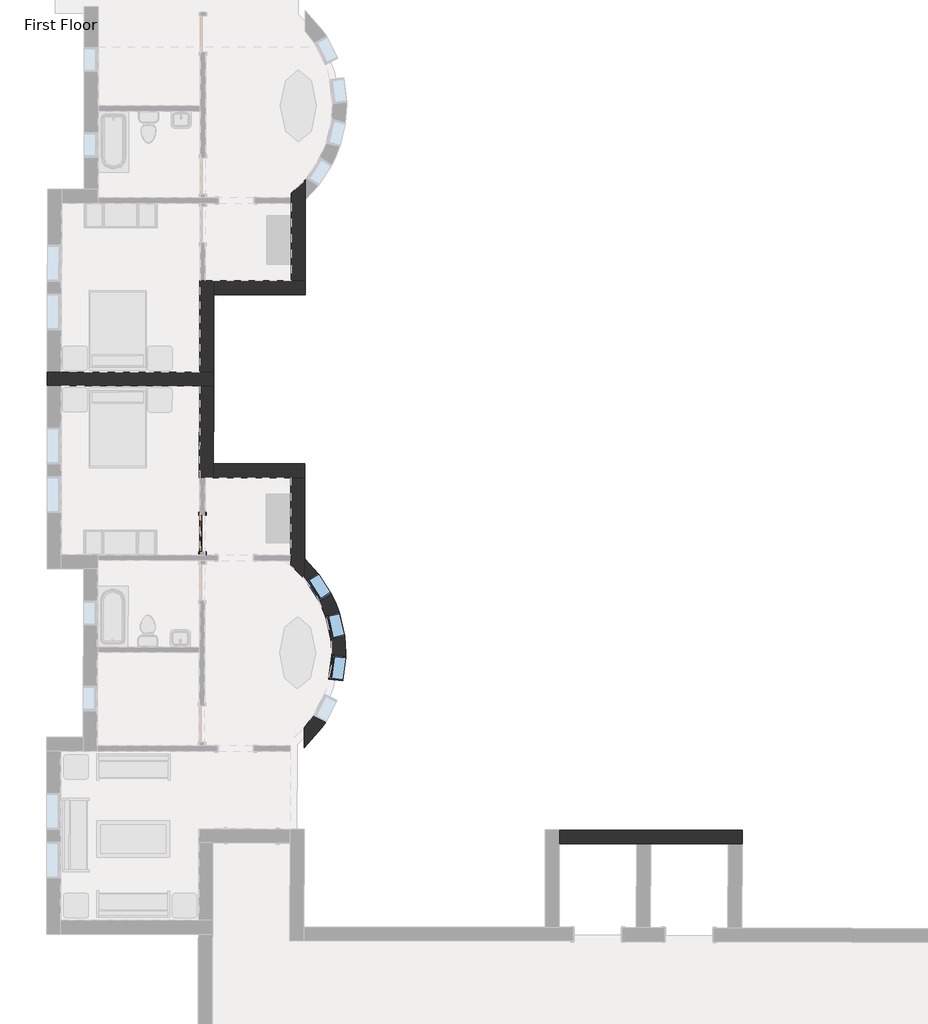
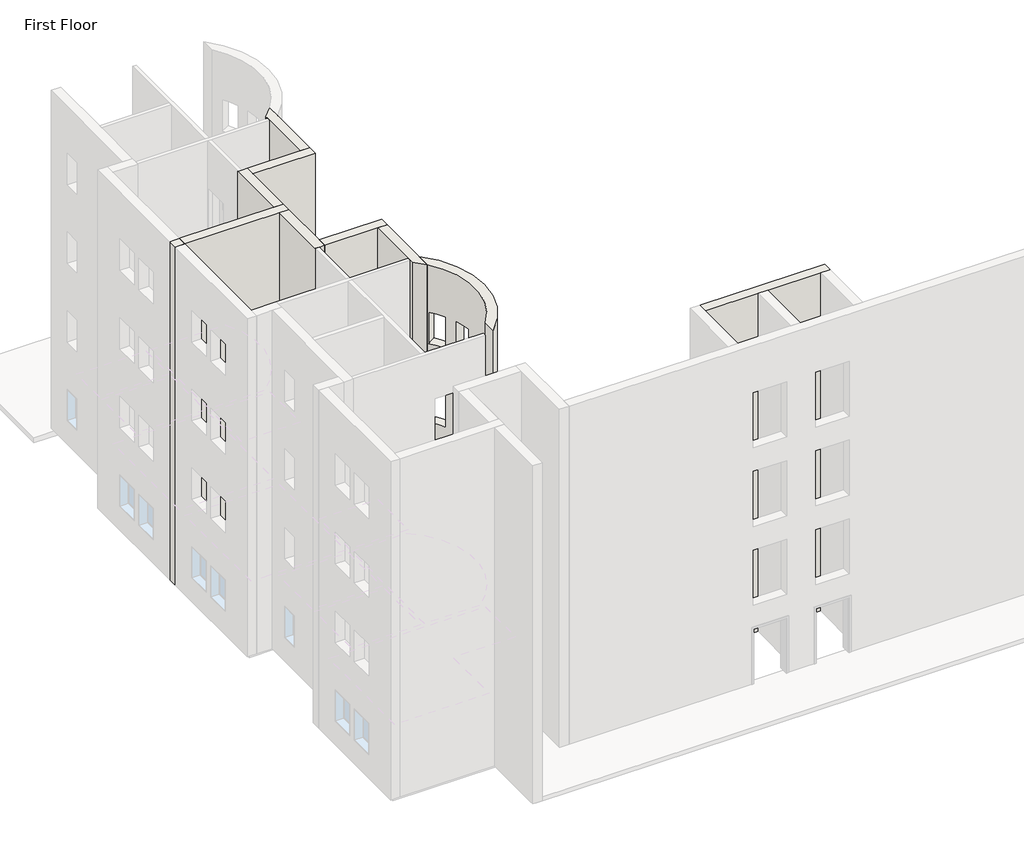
# One storey, part 7 of 22: 10 walls, 3 windows, 1 door.
"""IFC4 building model written with IfcOpenShell, lengths in millimetres."""

from ifc_helpers import new_model, si_unit, frame, origin, origin_with_axes, place, context, project, spatial, polyline, circle_curve, outline, extrude, faceted_brep, transform, mapped, element, save
from ifc_brep_helpers import plane_surface, cylinder_surface, revolved_surface, advanced_brep
from components import m_single_decorative_2_0915_x_2134mm_0b11df3f, m_fixed_0610_x_1220mm_2c28ef1d, m_fixed_0610_x_1220mm_1ea27827

model = new_model("IFC4")

# Units and contexts
model_context = context("Model", 3, world=origin())
ifc_project = project(units=[si_unit("LENGTHUNIT", "METRE", prefix="MILLI")], contexts=[model_context])

# Site, building, storey
site = spatial("IfcSite", under=ifc_project)
building = spatial("IfcBuilding", under=site)
storey = spatial("IfcBuildingStorey", under=building, Name="First Floor", Elevation=0.0)

# Door
placement = place(None, origin())
m_single_decorative_2_0915_x_2134mm_shape = m_single_decorative_2_0915_x_2134mm_0b11df3f(model_context)
element("IfcDoor", 1, ObjectType="M_Single-Decorative 2 : 0915 x 2134mm", at=placement, inside=storey, context=model_context, shape_type="MappedRepresentation", body=[
    mapped(m_single_decorative_2_0915_x_2134mm_shape, transform((-30128.4841363, -23534.6169126, 0.0), x_axis=(-0.0014474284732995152, -0.9999989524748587, 0.0), y_axis=(0.9999989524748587, -0.0014474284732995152, 0.0), z_axis=(0.0, 0.0, 1.0))),
])

# Walls
element("IfcWall", 2, ObjectType="Exterior - Brick on Mtl. Stud", at=placement, inside=storey, context=model_context, shape_type="Brep", body=[
    faceted_brep([(-29847.6357278, -19494.2691882, 0.0), (-30197.6353611, -19493.7625882, 0.0), (-33657.6317367, -19488.7544857, 0.0), (-34007.6313701, -19488.2478857, 0.0), (-34007.6313701, -19488.2478857, 13107.0), (-33657.6317367, -19488.7544857, 13107.0), (-30197.6353611, -19493.7625882, 13107.0), (-29847.6357278, -19494.2691882, 13107.0), (-29848.1423277, -19844.2688215, 0.0), (-29848.1423277, -19844.2688215, 13107.0), (-30198.1419611, -19843.7622216, 13107.0), (-33658.1383367, -19838.7541191, 13107.0), (-34008.13797, -19838.2475191, 13107.0), (-34008.13797, -19838.2475191, 0.0), (-33658.1383367, -19838.7541191, 0.0), (-30198.1419611, -19843.7622216, 0.0)], [[[0, 1, 2, 3, 4, 5, 6, 7]], [[8, 9, 10, 11, 12, 13, 14, 15]], [[3, 2, 1, 0, 8, 15, 14, 13]], [[7, 6, 5, 4, 12, 11, 10, 9]], [[4, 3, 13, 12]], [[0, 7, 9, 8]]]),
])
element("IfcWall", 3, ObjectType="Exterior - Brick on Mtl. Stud", at=placement, inside=storey, context=model_context, shape_type="Brep", body=[
    faceted_brep([(-29847.6357278, -19494.2691882, 0.0), (-29844.8335063, -17558.2712162, 0.0), (-29844.3269063, -17208.2715828, 0.0), (-29844.3269063, -17208.2715828, 13107.0), (-29844.8335063, -17558.2712162, 13107.0), (-29847.6357278, -19494.2691882, 13107.0), (-30197.6353611, -19493.7625882, 0.0), (-30197.6353611, -19493.7625882, 13107.0), (-30194.3265397, -17207.7649828, 13107.0), (-30194.3265397, -17207.7649828, 0.0), (-30187.0765472, -17207.7754767, 0.0), (-30051.5766892, -17207.9716033, 0.0), (-30051.5766892, -17207.9716033, 13107.0), (-30187.0765472, -17207.7754767, 13107.0)], [[[0, 1, 2, 3, 4, 5]], [[6, 7, 8, 9]], [[2, 1, 0, 6, 9, 10, 11]], [[5, 4, 3, 12, 13, 8, 7]], [[0, 5, 7, 6]], [[3, 2, 11, 10, 9, 8, 13, 12]]]),
])
element("IfcWall", 4, ObjectType="Exterior - Brick on Mtl. Stud", at=placement, inside=storey, context=model_context, shape_type="Brep", body=[
    faceted_brep([(-29844.8335063, -17558.2712162, 0.0), (-27558.8359009, -17561.5800377, 0.0), (-27558.8359009, -17561.5800377, 13107.0), (-29844.8335063, -17558.2712162, 13107.0), (-29844.3269063, -17208.2715828, 0.0), (-29844.3269063, -17208.2715828, 13107.0), (-27908.3289343, -17211.0738043, 13107.0), (-27558.3293009, -17211.5804043, 13107.0), (-27558.3293009, -17211.5804043, 0.0), (-27908.3289343, -17211.0738043, 0.0)], [[[0, 1, 2, 3]], [[4, 5, 6, 7, 8, 9]], [[1, 0, 4, 9, 8]], [[3, 2, 7, 6, 5]], [[0, 3, 5, 4]], [[2, 1, 8, 7]]]),
])
element("IfcWall", 5, ObjectType="Exterior - Brick on Mtl. Stud", at=placement, inside=storey, context=model_context, shape_type="AdvancedBrep", body=[
    advanced_brep(
    [(-27558.3293009, -17211.5804043, 0.0), (-27555.3862129, -15178.2606268, 0.0), (-27554.6547514, -14672.9086878, 0.0), (-27554.6547514, -14672.9086878, 13107.0), (-27555.3862129, -15178.2606268, 13107.0), (-27558.3293009, -17211.5804043, 13107.0), (-27908.3289343, -17211.0738043, 0.0), (-27908.3289343, -17211.0738043, 13107.0), (-27905.5162189, -15267.8258399, 13107.0), (-27905.3200924, -15132.3259819, 13107.0), (-27905.157022, -15019.663975, 13107.0), (-27905.157022, -15019.663975, 0.0), (-27905.3200924, -15132.3259819, 0.0), (-27905.5162189, -15267.8258399, 0.0)],
    [
        (0, 1),
        (1, 2),
        (2, 3),
        (3, 4),
        (4, 5),
        (5, 0),
        (6, 7),
        (7, 8),
        (8, 9),
        (9, 10),
        (10, 11),
        (11, 12),
        (12, 13),
        (13, 6),
        (0, 6),
        (11, 2, circle_curve(frame((-29743.0251618, -12811.413604, 0.0), z_axis=(0.0, 0.0, 1.0), x_axis=(0.0014474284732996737, 0.9999989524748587, 0.0)), 2873.0)),
        (3, 10, circle_curve(frame((-29743.0251618, -12811.413604, 13107.0), z_axis=(0.0, 0.0, -1.0), x_axis=(0.0014474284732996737, 0.9999989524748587, 0.0)), 2873.0)),
        (7, 5),
    ],
    [
        plane_surface(frame((-27558.5826009, -17386.580221, 0.0), z_axis=(0.9999989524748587, -0.0014474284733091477, 0.0), x_axis=(0.0014474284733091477, 0.9999989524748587, 0.0))),
        plane_surface(frame((-27908.5822343, -17386.073621, 0.0), z_axis=(-0.9999989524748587, 0.0014474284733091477, 0.0), x_axis=(-0.0014474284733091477, -0.9999989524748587, 0.0))),
        plane_surface(frame((-27558.5826009, -17386.580221, 0.0), z_axis=(0.0, 0.0, -1.0), x_axis=(-0.9999989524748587, 0.001447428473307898, 0.0))),
        plane_surface(frame((-27555.2737794, -15100.5826156, 13107.0), z_axis=(0.0, 0.0, 1.0), x_axis=(-0.9999989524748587, 0.001447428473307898, 0.0))),
        plane_surface(frame((-30019.326723, -17208.0182828, 0.0), z_axis=(-0.0014474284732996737, -0.9999989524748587, 0.0), x_axis=(-0.9999989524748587, 0.0014474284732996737, 0.0))),
        revolved_surface(polyline([(-29738.86669979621, -9938.41661353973, 0.0), (-29738.86669979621, -9938.41661353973, 13107.0)]), (-29743.0251618, -12811.413604, 0.0), (0.0, 0.0, -1.0)),
    ],
    [
        (0, [[1, 2, 3, 4, 5, 6]]),
        (1, [[7, 8, 9, 10, 11, 12, 13, 14]]),
        (2, [[-2, -1, 15, -14, -13, -12, 16]]),
        (3, [[-5, -4, 17, -10, -9, -8, 18]]),
        (4, [[-6, -18, -7, -15]]),
        (5, [[-3, -16, -11, -17]]),
    ],
),
])
element("IfcWall", 6, ObjectType="Exterior - Brick on Mtl. Stud", at=placement, inside=storey, context=model_context, shape_type="Brep", body=[
    faceted_brep([(-21195.7227592, -31299.3523369, 0.0), (-19259.7308712, -31304.9567741, 0.0), (-18909.7323377, -31305.969973, 0.0), (-16973.7404497, -31311.5744101, 0.0), (-16623.7419163, -31312.587609, 0.0), (-16623.7419163, -31312.587609, 13107.0), (-16973.7404497, -31311.5744101, 13107.0), (-18909.7323377, -31305.969973, 13107.0), (-19259.7308712, -31304.9567741, 13107.0), (-21195.7227592, -31299.3523369, 13107.0), (-21194.7095603, -30949.3538034, 0.0), (-21194.7095603, -30949.3538034, 13107.0), (-16622.7287174, -30962.5890755, 13107.0), (-16622.7287174, -30962.5890755, 0.0)], [[[0, 1, 2, 3, 4, 5, 6, 7, 8, 9]], [[10, 11, 12, 13]], [[4, 3, 2, 1, 0, 10, 13]], [[9, 8, 7, 6, 5, 12, 11]], [[0, 9, 11, 10]], [[5, 4, 13, 12]]]),
])
element("IfcWall", 7, ObjectType="Exterior - Brick on Mtl. Stud", at=placement, inside=storey, context=model_context, shape_type="SweptSolid", body=[
    extrude(outline(polyline([(-33657.6317367, -19488.7544857), (-30197.6353611, -19493.7625882), (-30198.1419611, -19843.7622216), (-33658.1383367, -19838.7541191), (-33657.6317367, -19488.7544857)])), origin_with_axes(), (0.0, 0.0, 1.0), 13107.0),
])
element("IfcWall", 8, ObjectType="Exterior - Brick on Mtl. Stud", at=placement, inside=storey, context=model_context, shape_type="Brep", body=[
    faceted_brep([(-30198.1419611, -19843.7622216, 0.0), (-30201.4507826, -22129.7598269, 0.0), (-30201.4507826, -22129.7598269, 13107.0), (-30198.1419611, -19843.7622216, 13107.0), (-29848.1423277, -19844.2688215, 0.0), (-29848.1423277, -19844.2688215, 13107.0), (-29850.9445493, -21780.2667935, 13107.0), (-29851.4511492, -22130.2664269, 13107.0), (-29851.4511492, -22130.2664269, 0.0), (-29850.9445493, -21780.2667935, 0.0), (-30058.7009321, -22129.9664473, 0.0), (-30194.2007902, -22129.7703208, 0.0), (-30194.2007902, -22129.7703208, 13107.0), (-30058.7009321, -22129.9664473, 13107.0)], [[[0, 1, 2, 3]], [[4, 5, 6, 7, 8, 9]], [[1, 0, 4, 9, 8, 10, 11]], [[3, 2, 12, 13, 7, 6, 5]], [[2, 1, 11, 10, 8, 7, 13, 12]], [[0, 3, 5, 4]]]),
])
element("IfcWall", 9, ObjectType="Exterior - Brick on Mtl. Stud", at=placement, inside=storey, context=model_context, shape_type="Brep", body=[
    faceted_brep([(-29851.4511492, -22130.2664269, 0.0), (-27915.4531772, -22133.0686484, 0.0), (-27565.4535439, -22133.5752484, 0.0), (-27565.4535439, -22133.5752484, 13107.0), (-27915.4531772, -22133.0686484, 13107.0), (-29851.4511492, -22130.2664269, 13107.0), (-29850.9445493, -21780.2667935, 0.0), (-29850.9445493, -21780.2667935, 13107.0), (-27564.9469439, -21783.575615, 13107.0), (-27564.9469439, -21783.575615, 0.0)], [[[0, 1, 2, 3, 4, 5]], [[6, 7, 8, 9]], [[2, 1, 0, 6, 9]], [[5, 4, 3, 8, 7]], [[0, 5, 7, 6]], [[3, 2, 9, 8]]]),
])
element("IfcWall", 10, ObjectType="Exterior - Brick on Mtl. Stud", at=placement, inside=storey, context=model_context, shape_type="AdvancedBrep", body=[
    advanced_brep(
    [(-27915.4531772, -22133.0686484, 0.0), (-27918.2658926, -24076.3166128, 0.0), (-27918.4620192, -24211.8164709, 0.0), (-27918.6250895, -24324.4784778, 0.0), (-27918.6250895, -24324.4784778, 13107.0), (-27918.4620192, -24211.8164709, 13107.0), (-27918.2658926, -24076.3166128, 13107.0), (-27915.4531772, -22133.0686484, 13107.0), (-27565.4535439, -22133.5752484, 0.0), (-27565.4535439, -22133.5752484, 13107.0), (-27568.3966319, -24166.8950259, 13107.0), (-27569.1280934, -24672.2469649, 13107.0), (-27569.1280934, -24672.2469649, 0.0), (-27568.3966319, -24166.8950259, 0.0)],
    [
        (0, 1),
        (1, 2),
        (2, 3),
        (3, 4),
        (4, 5),
        (5, 6),
        (6, 7),
        (7, 0),
        (8, 9),
        (9, 10),
        (10, 11),
        (11, 12),
        (12, 13),
        (13, 8),
        (0, 8),
        (12, 3, circle_curve(frame((-29762.8780907, -26527.3992362, 0.0), z_axis=(0.0, 0.0, 1.0), x_axis=(-0.0014474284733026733, -0.9999989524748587, 0.0)), 2873.0)),
        (4, 11, circle_curve(frame((-29762.8780907, -26527.3992362, 13107.0), z_axis=(0.0, 0.0, -1.0), x_axis=(-0.0014474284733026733, -0.9999989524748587, 0.0)), 2873.0)),
        (9, 7),
    ],
    [
        plane_surface(frame((-27915.1998773, -21958.0688317, 0.0), z_axis=(-0.9999989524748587, 0.0014474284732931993, 0.0), x_axis=(-0.0014474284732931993, -0.9999989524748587, 0.0))),
        plane_surface(frame((-27565.2002439, -21958.5754317, 0.0), z_axis=(0.9999989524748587, -0.0014474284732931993, 0.0), x_axis=(0.0014474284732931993, 0.9999989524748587, 0.0))),
        plane_surface(frame((-27915.1998773, -21958.0688317, 0.0), z_axis=(0.0, 0.0, -1.0), x_axis=(0.9999989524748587, -0.0014474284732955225, 0.0))),
        plane_surface(frame((-27918.5086987, -24244.0664371, 13107.0), z_axis=(0.0, 0.0, 1.0), x_axis=(0.9999989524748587, -0.0014474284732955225, 0.0))),
        plane_surface(frame((-30026.4509659, -22130.0131269, 0.0), z_axis=(0.0014474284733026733, 0.9999989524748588, 0.0), x_axis=(0.9999989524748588, -0.0014474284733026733, 0.0))),
        revolved_surface(polyline([(-29767.036552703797, -29400.39622666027, 0.0), (-29767.036552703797, -29400.39622666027, 13107.000000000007)]), (-29762.8780907, -26527.3992362, 0.0), (0.0, 0.0, -1.0000000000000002)),
    ],
    [
        (0, [[1, 2, 3, 4, 5, 6, 7, 8]]),
        (1, [[9, 10, 11, 12, 13, 14]]),
        (2, [[-3, -2, -1, 15, -14, -13, 16]]),
        (3, [[-7, -6, -5, 17, -11, -10, 18]]),
        (4, [[-8, -18, -9, -15]]),
        (5, [[-4, -16, -12, -17]]),
    ],
),
])
element("IfcWall", 11, ObjectType="Exterior - Brick on Mtl. Stud", at=placement, inside=storey, context=model_context, shape_type="AdvancedBrep", body=[
    advanced_brep(
    [(-27575.2391418, -28894.246259, 13107.0), (-27568.3966319, -24166.8950259, 13107.0), (-27569.1280934, -24672.2469649, 13107.0), (-27574.5076803, -28388.8943199, 13107.0), (-27568.3966319, -24166.8950259, 0.0), (-27575.2391418, -28894.246259, 0.0), (-27574.5076803, -28388.8943199, 0.0), (-27569.1280934, -24672.2469649, 0.0), (-27239.7477676, -24522.0208747, 2135.0), (-27239.7477676, -24522.0208747, 915.0), (-26907.0944773, -25033.3346614, 915.0), (-26907.0944773, -25033.3346614, 2135.0), (-26706.0313502, -25505.9213828, 2135.0), (-26706.0313502, -25505.9213828, 915.0), (-26568.3191227, -26100.173301, 915.0), (-26568.3191227, -26100.173301, 2135.0), (-26614.8547262, -27218.5416936, 915.0), (-26614.8547262, -27218.5416936, 2135.0), (-26541.0157639, -26613.0271953, 2135.0), (-26541.0157639, -26613.0271953, 915.0), (-27041.0884074, -28253.5481057, 915.0), (-27041.0884074, -28253.5481057, 2135.0), (-26764.6043239, -27709.8050123, 2135.0), (-26764.6043239, -27709.8050123, 915.0), (-26614.8547262, -27218.5416936, 10059.0), (-26614.8547262, -27218.5416936, 11279.0), (-26541.0157639, -26613.0271953, 11279.0), (-26541.0157639, -26613.0271953, 10059.0), (-27041.0884074, -28253.5481057, 10059.0), (-27041.0884074, -28253.5481057, 11279.0), (-26764.6043239, -27709.8050123, 11279.0), (-26764.6043239, -27709.8050123, 10059.0), (-26706.0313502, -25505.9213828, 10059.0), (-26568.3191227, -26100.173301, 10059.0), (-26568.3191227, -26100.173301, 11279.0), (-26706.0313502, -25505.9213828, 11279.0), (-27239.7477676, -24522.0208747, 10059.0), (-26907.0944773, -25033.3346614, 10059.0), (-26907.0944773, -25033.3346614, 11279.0), (-27239.7477676, -24522.0208747, 11279.0), (-26614.8547262, -27218.5416936, 3963.0), (-26614.8547262, -27218.5416936, 5183.0), (-26541.0157639, -26613.0271953, 5183.0), (-26541.0157639, -26613.0271953, 3963.0), (-27041.0884074, -28253.5481057, 3963.0), (-27041.0884074, -28253.5481057, 5183.0), (-26764.6043239, -27709.8050123, 5183.0), (-26764.6043239, -27709.8050123, 3963.0), (-26706.0313502, -25505.9213828, 3963.0), (-26568.3191227, -26100.173301, 3963.0), (-26568.3191227, -26100.173301, 5183.0), (-26706.0313502, -25505.9213828, 5183.0), (-27239.7477676, -24522.0208747, 3963.0), (-26907.0944773, -25033.3346614, 3963.0), (-26907.0944773, -25033.3346614, 5183.0), (-27239.7477676, -24522.0208747, 5183.0), (-26614.8547262, -27218.5416936, 7011.0), (-26614.8547262, -27218.5416936, 8231.0), (-26541.0157639, -26613.0271953, 8231.0), (-26541.0157639, -26613.0271953, 7011.0), (-27041.0884074, -28253.5481057, 7011.0), (-27041.0884074, -28253.5481057, 8231.0), (-26764.6043239, -27709.8050123, 8231.0), (-26764.6043239, -27709.8050123, 7011.0), (-26706.0313502, -25505.9213828, 7011.0), (-26568.3191227, -26100.173301, 7011.0), (-26568.3191227, -26100.173301, 8231.0), (-26706.0313502, -25505.9213828, 8231.0), (-27239.7477676, -24522.0208747, 7011.0), (-26907.0944773, -25033.3346614, 7011.0), (-26907.0944773, -25033.3346614, 8231.0), (-27239.7477676, -24522.0208747, 8231.0), (-27534.6094454, -24713.8535807, 915.0), (-27534.6094454, -24713.8535807, 2135.0), (-27201.9561552, -25225.1673674, 2135.0), (-27201.9561552, -25225.1673674, 915.0), (-27048.7213426, -25585.3365277, 915.0), (-27048.7213426, -25585.3365277, 2135.0), (-26911.0091151, -26179.588446, 2135.0), (-26911.0091151, -26179.588446, 915.0), (-26964.0395625, -27175.960639, 915.0), (-26890.2006003, -26570.4461407, 915.0), (-26890.2006003, -26570.4461407, 2135.0), (-26964.0395625, -27175.960639, 2135.0), (-27354.651243, -28094.1067551, 915.0), (-27078.1671595, -27550.3636617, 915.0), (-27078.1671595, -27550.3636617, 2135.0), (-27354.651243, -28094.1067551, 2135.0), (-26964.0395625, -27175.960639, 10059.0), (-26890.2006003, -26570.4461407, 10059.0), (-26890.2006003, -26570.4461407, 11279.0), (-26964.0395625, -27175.960639, 11279.0), (-27354.651243, -28094.1067551, 10059.0), (-27078.1671595, -27550.3636617, 10059.0), (-27078.1671595, -27550.3636617, 11279.0), (-27354.651243, -28094.1067551, 11279.0), (-27048.7213426, -25585.3365277, 10059.0), (-27048.7213426, -25585.3365277, 11279.0), (-26911.0091151, -26179.588446, 11279.0), (-26911.0091151, -26179.588446, 10059.0), (-27534.6094454, -24713.8535807, 10059.0), (-27534.6094454, -24713.8535807, 11279.0), (-27201.9561552, -25225.1673674, 11279.0), (-27201.9561552, -25225.1673674, 10059.0), (-26964.0395625, -27175.960639, 3963.0), (-26890.2006003, -26570.4461407, 3963.0), (-26890.2006003, -26570.4461407, 5183.0), (-26964.0395625, -27175.960639, 5183.0), (-27354.651243, -28094.1067551, 3963.0), (-27078.1671595, -27550.3636617, 3963.0), (-27078.1671595, -27550.3636617, 5183.0), (-27354.651243, -28094.1067551, 5183.0), (-27048.7213426, -25585.3365277, 3963.0), (-27048.7213426, -25585.3365277, 5183.0), (-26911.0091151, -26179.588446, 5183.0), (-26911.0091151, -26179.588446, 3963.0), (-27534.6094454, -24713.8535807, 3963.0), (-27534.6094454, -24713.8535807, 5183.0), (-27201.9561552, -25225.1673674, 5183.0), (-27201.9561552, -25225.1673674, 3963.0), (-26964.0395625, -27175.960639, 7011.0), (-26890.2006003, -26570.4461407, 7011.0), (-26890.2006003, -26570.4461407, 8231.0), (-26964.0395625, -27175.960639, 8231.0), (-27354.651243, -28094.1067551, 7011.0), (-27078.1671595, -27550.3636617, 7011.0), (-27078.1671595, -27550.3636617, 8231.0), (-27354.651243, -28094.1067551, 8231.0), (-27048.7213426, -25585.3365277, 7011.0), (-27048.7213426, -25585.3365277, 8231.0), (-26911.0091151, -26179.588446, 8231.0), (-26911.0091151, -26179.588446, 7011.0), (-27534.6094454, -24713.8535807, 7011.0), (-27534.6094454, -24713.8535807, 8231.0), (-27201.9561552, -25225.1673674, 8231.0), (-27201.9561552, -25225.1673674, 7011.0)],
    [
        (0, 1, circle_curve(frame((-29762.8780907, -26527.3992362, 13107.0), z_axis=(0.0, 0.0, 1.0), x_axis=(-0.0014474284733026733, -0.9999989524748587, 0.0)), 3223.0)),
        (1, 2),
        (2, 3, circle_curve(frame((-29762.8780907, -26527.3992362, 13107.0), z_axis=(0.0, 0.0, -1.0), x_axis=(-0.0014474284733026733, -0.9999989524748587, 0.0)), 2873.0)),
        (3, 0),
        (4, 5, circle_curve(frame((-29762.8780907, -26527.3992362, 0.0), z_axis=(0.0, 0.0, -1.0), x_axis=(-0.0014474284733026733, -0.9999989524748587, 0.0)), 3223.0)),
        (5, 6),
        (6, 7, circle_curve(frame((-29762.8780907, -26527.3992362, 0.0), z_axis=(0.0, 0.0, 1.0), x_axis=(-0.0014474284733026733, -0.9999989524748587, 0.0)), 2873.0)),
        (7, 4),
        (0, 5),
        (4, 1),
        (8, 9),
        (9, 10, circle_curve(frame((-29762.8780907, -26527.3992362, 915.0), z_axis=(0.0, 0.0, -1.0), x_axis=(-0.0014474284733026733, -0.9999989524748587, 0.0)), 3223.0)),
        (10, 11),
        (11, 8, circle_curve(frame((-29762.8780907, -26527.3992362, 2135.0), z_axis=(0.0, 0.0, 1.0), x_axis=(-0.0014474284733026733, -0.9999989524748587, 0.0)), 3223.0)),
        (12, 13),
        (13, 14, circle_curve(frame((-29762.8780907, -26527.3992362, 915.0), z_axis=(0.0, 0.0, -1.0), x_axis=(-0.0014474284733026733, -0.9999989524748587, 0.0)), 3223.0)),
        (14, 15),
        (15, 12, circle_curve(frame((-29762.8780907, -26527.3992362, 2135.0), z_axis=(0.0, 0.0, 1.0), x_axis=(-0.0014474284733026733, -0.9999989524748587, 0.0)), 3223.0)),
        (16, 17),
        (17, 18, circle_curve(frame((-29762.8780907, -26527.3992362, 2135.0), z_axis=(0.0, 0.0, 1.0), x_axis=(-0.0014474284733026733, -0.9999989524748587, 0.0)), 3223.0)),
        (18, 19),
        (19, 16, circle_curve(frame((-29762.8780907, -26527.3992362, 915.0), z_axis=(0.0, 0.0, -1.0), x_axis=(-0.0014474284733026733, -0.9999989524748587, 0.0)), 3223.0)),
        (20, 21),
        (21, 22, circle_curve(frame((-29762.8780907, -26527.3992362, 2135.0), z_axis=(0.0, 0.0, 1.0), x_axis=(-0.0014474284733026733, -0.9999989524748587, 0.0)), 3223.0)),
        (22, 23),
        (23, 20, circle_curve(frame((-29762.8780907, -26527.3992362, 915.0), z_axis=(0.0, 0.0, -1.0), x_axis=(-0.0014474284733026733, -0.9999989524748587, 0.0)), 3223.0)),
        (24, 25),
        (25, 26, circle_curve(frame((-29762.8780907, -26527.3992362, 11279.0), z_axis=(0.0, 0.0, 1.0), x_axis=(-0.0014474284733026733, -0.9999989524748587, 0.0)), 3223.0)),
        (26, 27),
        (27, 24, circle_curve(frame((-29762.8780907, -26527.3992362, 10059.0), z_axis=(0.0, 0.0, -1.0), x_axis=(-0.0014474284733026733, -0.9999989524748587, 0.0)), 3223.0)),
        (28, 29),
        (29, 30, circle_curve(frame((-29762.8780907, -26527.3992362, 11279.0), z_axis=(0.0, 0.0, 1.0), x_axis=(-0.0014474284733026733, -0.9999989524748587, 0.0)), 3223.0)),
        (30, 31),
        (31, 28, circle_curve(frame((-29762.8780907, -26527.3992362, 10059.0), z_axis=(0.0, 0.0, -1.0), x_axis=(-0.0014474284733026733, -0.9999989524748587, 0.0)), 3223.0)),
        (32, 33, circle_curve(frame((-29762.8780907, -26527.3992362, 10059.0), z_axis=(0.0, 0.0, -1.0), x_axis=(-0.0014474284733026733, -0.9999989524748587, 0.0)), 3223.0)),
        (33, 34),
        (34, 35, circle_curve(frame((-29762.8780907, -26527.3992362, 11279.0), z_axis=(0.0, 0.0, 1.0), x_axis=(-0.0014474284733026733, -0.9999989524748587, 0.0)), 3223.0)),
        (35, 32),
        (36, 37, circle_curve(frame((-29762.8780907, -26527.3992362, 10059.0), z_axis=(0.0, 0.0, -1.0), x_axis=(-0.0014474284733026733, -0.9999989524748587, 0.0)), 3223.0)),
        (37, 38),
        (38, 39, circle_curve(frame((-29762.8780907, -26527.3992362, 11279.0), z_axis=(0.0, 0.0, 1.0), x_axis=(-0.0014474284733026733, -0.9999989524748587, 0.0)), 3223.0)),
        (39, 36),
        (40, 41),
        (41, 42, circle_curve(frame((-29762.8780907, -26527.3992362, 5183.0), z_axis=(0.0, 0.0, 1.0), x_axis=(-0.0014474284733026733, -0.9999989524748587, 0.0)), 3223.0)),
        (42, 43),
        (43, 40, circle_curve(frame((-29762.8780907, -26527.3992362, 3963.0), z_axis=(0.0, 0.0, -1.0), x_axis=(-0.0014474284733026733, -0.9999989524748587, 0.0)), 3223.0)),
        (44, 45),
        (45, 46, circle_curve(frame((-29762.8780907, -26527.3992362, 5183.0), z_axis=(0.0, 0.0, 1.0), x_axis=(-0.0014474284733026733, -0.9999989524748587, 0.0)), 3223.0)),
        (46, 47),
        (47, 44, circle_curve(frame((-29762.8780907, -26527.3992362, 3963.0), z_axis=(0.0, 0.0, -1.0), x_axis=(-0.0014474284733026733, -0.9999989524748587, 0.0)), 3223.0)),
        (48, 49, circle_curve(frame((-29762.8780907, -26527.3992362, 3963.0), z_axis=(0.0, 0.0, -1.0), x_axis=(-0.0014474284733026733, -0.9999989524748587, 0.0)), 3223.0)),
        (49, 50),
        (50, 51, circle_curve(frame((-29762.8780907, -26527.3992362, 5183.0), z_axis=(0.0, 0.0, 1.0), x_axis=(-0.0014474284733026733, -0.9999989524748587, 0.0)), 3223.0)),
        (51, 48),
        (52, 53, circle_curve(frame((-29762.8780907, -26527.3992362, 3963.0), z_axis=(0.0, 0.0, -1.0), x_axis=(-0.0014474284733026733, -0.9999989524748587, 0.0)), 3223.0)),
        (53, 54),
        (54, 55, circle_curve(frame((-29762.8780907, -26527.3992362, 5183.0), z_axis=(0.0, 0.0, 1.0), x_axis=(-0.0014474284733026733, -0.9999989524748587, 0.0)), 3223.0)),
        (55, 52),
        (56, 57),
        (57, 58, circle_curve(frame((-29762.8780907, -26527.3992362, 8231.0), z_axis=(0.0, 0.0, 1.0), x_axis=(-0.0014474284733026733, -0.9999989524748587, 0.0)), 3223.0)),
        (58, 59),
        (59, 56, circle_curve(frame((-29762.8780907, -26527.3992362, 7011.0), z_axis=(0.0, 0.0, -1.0), x_axis=(-0.0014474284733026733, -0.9999989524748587, 0.0)), 3223.0)),
        (60, 61),
        (61, 62, circle_curve(frame((-29762.8780907, -26527.3992362, 8231.0), z_axis=(0.0, 0.0, 1.0), x_axis=(-0.0014474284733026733, -0.9999989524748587, 0.0)), 3223.0)),
        (62, 63),
        (63, 60, circle_curve(frame((-29762.8780907, -26527.3992362, 7011.0), z_axis=(0.0, 0.0, -1.0), x_axis=(-0.0014474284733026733, -0.9999989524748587, 0.0)), 3223.0)),
        (64, 65, circle_curve(frame((-29762.8780907, -26527.3992362, 7011.0), z_axis=(0.0, 0.0, -1.0), x_axis=(-0.0014474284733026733, -0.9999989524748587, 0.0)), 3223.0)),
        (65, 66),
        (66, 67, circle_curve(frame((-29762.8780907, -26527.3992362, 8231.0), z_axis=(0.0, 0.0, 1.0), x_axis=(-0.0014474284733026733, -0.9999989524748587, 0.0)), 3223.0)),
        (67, 64),
        (68, 69, circle_curve(frame((-29762.8780907, -26527.3992362, 7011.0), z_axis=(0.0, 0.0, -1.0), x_axis=(-0.0014474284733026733, -0.9999989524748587, 0.0)), 3223.0)),
        (69, 70),
        (70, 71, circle_curve(frame((-29762.8780907, -26527.3992362, 8231.0), z_axis=(0.0, 0.0, 1.0), x_axis=(-0.0014474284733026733, -0.9999989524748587, 0.0)), 3223.0)),
        (71, 68),
        (2, 7),
        (6, 3),
        (72, 73),
        (73, 74, circle_curve(frame((-29762.8780907, -26527.3992362, 2135.0), z_axis=(0.0, 0.0, -1.0), x_axis=(-0.0014474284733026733, -0.9999989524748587, 0.0)), 2873.0)),
        (74, 75),
        (75, 72, circle_curve(frame((-29762.8780907, -26527.3992362, 915.0), z_axis=(0.0, 0.0, 1.0), x_axis=(-0.0014474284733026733, -0.9999989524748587, 0.0)), 2873.0)),
        (76, 77),
        (77, 78, circle_curve(frame((-29762.8780907, -26527.3992362, 2135.0), z_axis=(0.0, 0.0, -1.0), x_axis=(-0.0014474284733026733, -0.9999989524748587, 0.0)), 2873.0)),
        (78, 79),
        (79, 76, circle_curve(frame((-29762.8780907, -26527.3992362, 915.0), z_axis=(0.0, 0.0, 1.0), x_axis=(-0.0014474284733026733, -0.9999989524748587, 0.0)), 2873.0)),
        (80, 81, circle_curve(frame((-29762.8780907, -26527.3992362, 915.0), z_axis=(0.0, 0.0, 1.0), x_axis=(-0.0014474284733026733, -0.9999989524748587, 0.0)), 2873.0)),
        (81, 82),
        (82, 83, circle_curve(frame((-29762.8780907, -26527.3992362, 2135.0), z_axis=(0.0, 0.0, -1.0), x_axis=(-0.0014474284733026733, -0.9999989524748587, 0.0)), 2873.0)),
        (83, 80),
        (84, 85, circle_curve(frame((-29762.8780907, -26527.3992362, 915.0), z_axis=(0.0, 0.0, 1.0), x_axis=(-0.0014474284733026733, -0.9999989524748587, 0.0)), 2873.0)),
        (85, 86),
        (86, 87, circle_curve(frame((-29762.8780907, -26527.3992362, 2135.0), z_axis=(0.0, 0.0, -1.0), x_axis=(-0.0014474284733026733, -0.9999989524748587, 0.0)), 2873.0)),
        (87, 84),
        (88, 89, circle_curve(frame((-29762.8780907, -26527.3992362, 10059.0), z_axis=(0.0, 0.0, 1.0), x_axis=(-0.0014474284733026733, -0.9999989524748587, 0.0)), 2873.0)),
        (89, 90),
        (90, 91, circle_curve(frame((-29762.8780907, -26527.3992362, 11279.0), z_axis=(0.0, 0.0, -1.0), x_axis=(-0.0014474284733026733, -0.9999989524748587, 0.0)), 2873.0)),
        (91, 88),
        (92, 93, circle_curve(frame((-29762.8780907, -26527.3992362, 10059.0), z_axis=(0.0, 0.0, 1.0), x_axis=(-0.0014474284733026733, -0.9999989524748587, 0.0)), 2873.0)),
        (93, 94),
        (94, 95, circle_curve(frame((-29762.8780907, -26527.3992362, 11279.0), z_axis=(0.0, 0.0, -1.0), x_axis=(-0.0014474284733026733, -0.9999989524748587, 0.0)), 2873.0)),
        (95, 92),
        (96, 97),
        (97, 98, circle_curve(frame((-29762.8780907, -26527.3992362, 11279.0), z_axis=(0.0, 0.0, -1.0), x_axis=(-0.0014474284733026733, -0.9999989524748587, 0.0)), 2873.0)),
        (98, 99),
        (99, 96, circle_curve(frame((-29762.8780907, -26527.3992362, 10059.0), z_axis=(0.0, 0.0, 1.0), x_axis=(-0.0014474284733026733, -0.9999989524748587, 0.0)), 2873.0)),
        (100, 101),
        (101, 102, circle_curve(frame((-29762.8780907, -26527.3992362, 11279.0), z_axis=(0.0, 0.0, -1.0), x_axis=(-0.0014474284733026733, -0.9999989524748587, 0.0)), 2873.0)),
        (102, 103),
        (103, 100, circle_curve(frame((-29762.8780907, -26527.3992362, 10059.0), z_axis=(0.0, 0.0, 1.0), x_axis=(-0.0014474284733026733, -0.9999989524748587, 0.0)), 2873.0)),
        (104, 105, circle_curve(frame((-29762.8780907, -26527.3992362, 3963.0), z_axis=(0.0, 0.0, 1.0), x_axis=(-0.0014474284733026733, -0.9999989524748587, 0.0)), 2873.0)),
        (105, 106),
        (106, 107, circle_curve(frame((-29762.8780907, -26527.3992362, 5183.0), z_axis=(0.0, 0.0, -1.0), x_axis=(-0.0014474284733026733, -0.9999989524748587, 0.0)), 2873.0)),
        (107, 104),
        (108, 109, circle_curve(frame((-29762.8780907, -26527.3992362, 3963.0), z_axis=(0.0, 0.0, 1.0), x_axis=(-0.0014474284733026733, -0.9999989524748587, 0.0)), 2873.0)),
        (109, 110),
        (110, 111, circle_curve(frame((-29762.8780907, -26527.3992362, 5183.0), z_axis=(0.0, 0.0, -1.0), x_axis=(-0.0014474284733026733, -0.9999989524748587, 0.0)), 2873.0)),
        (111, 108),
        (112, 113),
        (113, 114, circle_curve(frame((-29762.8780907, -26527.3992362, 5183.0), z_axis=(0.0, 0.0, -1.0), x_axis=(-0.0014474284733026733, -0.9999989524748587, 0.0)), 2873.0)),
        (114, 115),
        (115, 112, circle_curve(frame((-29762.8780907, -26527.3992362, 3963.0), z_axis=(0.0, 0.0, 1.0), x_axis=(-0.0014474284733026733, -0.9999989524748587, 0.0)), 2873.0)),
        (116, 117),
        (117, 118, circle_curve(frame((-29762.8780907, -26527.3992362, 5183.0), z_axis=(0.0, 0.0, -1.0), x_axis=(-0.0014474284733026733, -0.9999989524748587, 0.0)), 2873.0)),
        (118, 119),
        (119, 116, circle_curve(frame((-29762.8780907, -26527.3992362, 3963.0), z_axis=(0.0, 0.0, 1.0), x_axis=(-0.0014474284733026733, -0.9999989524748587, 0.0)), 2873.0)),
        (120, 121, circle_curve(frame((-29762.8780907, -26527.3992362, 7011.0), z_axis=(0.0, 0.0, 1.0), x_axis=(-0.0014474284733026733, -0.9999989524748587, 0.0)), 2873.0)),
        (121, 122),
        (122, 123, circle_curve(frame((-29762.8780907, -26527.3992362, 8231.0), z_axis=(0.0, 0.0, -1.0), x_axis=(-0.0014474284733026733, -0.9999989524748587, 0.0)), 2873.0)),
        (123, 120),
        (124, 125, circle_curve(frame((-29762.8780907, -26527.3992362, 7011.0), z_axis=(0.0, 0.0, 1.0), x_axis=(-0.0014474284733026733, -0.9999989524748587, 0.0)), 2873.0)),
        (125, 126),
        (126, 127, circle_curve(frame((-29762.8780907, -26527.3992362, 8231.0), z_axis=(0.0, 0.0, -1.0), x_axis=(-0.0014474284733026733, -0.9999989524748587, 0.0)), 2873.0)),
        (127, 124),
        (128, 129),
        (129, 130, circle_curve(frame((-29762.8780907, -26527.3992362, 8231.0), z_axis=(0.0, 0.0, -1.0), x_axis=(-0.0014474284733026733, -0.9999989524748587, 0.0)), 2873.0)),
        (130, 131),
        (131, 128, circle_curve(frame((-29762.8780907, -26527.3992362, 7011.0), z_axis=(0.0, 0.0, 1.0), x_axis=(-0.0014474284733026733, -0.9999989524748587, 0.0)), 2873.0)),
        (132, 133),
        (133, 134, circle_curve(frame((-29762.8780907, -26527.3992362, 8231.0), z_axis=(0.0, 0.0, -1.0), x_axis=(-0.0014474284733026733, -0.9999989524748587, 0.0)), 2873.0)),
        (134, 135),
        (135, 132, circle_curve(frame((-29762.8780907, -26527.3992362, 7011.0), z_axis=(0.0, 0.0, 1.0), x_axis=(-0.0014474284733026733, -0.9999989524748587, 0.0)), 2873.0)),
        (72, 9),
        (8, 73),
        (11, 74),
        (10, 75),
        (76, 13),
        (12, 77),
        (15, 78),
        (14, 79),
        (16, 80),
        (83, 17),
        (82, 18),
        (81, 19),
        (20, 84),
        (87, 21),
        (86, 22),
        (85, 23),
        (24, 88),
        (91, 25),
        (90, 26),
        (89, 27),
        (28, 92),
        (95, 29),
        (94, 30),
        (93, 31),
        (96, 32),
        (35, 97),
        (34, 98),
        (33, 99),
        (100, 36),
        (39, 101),
        (38, 102),
        (37, 103),
        (40, 104),
        (107, 41),
        (106, 42),
        (105, 43),
        (44, 108),
        (111, 45),
        (110, 46),
        (109, 47),
        (112, 48),
        (51, 113),
        (50, 114),
        (49, 115),
        (116, 52),
        (55, 117),
        (54, 118),
        (53, 119),
        (56, 120),
        (123, 57),
        (122, 58),
        (121, 59),
        (60, 124),
        (127, 61),
        (126, 62),
        (125, 63),
        (128, 64),
        (67, 129),
        (66, 130),
        (65, 131),
        (132, 68),
        (71, 133),
        (70, 134),
        (69, 135),
    ],
    [
        plane_surface(frame((-29767.5431527, -29750.39586, 13107.0), z_axis=(0.0, 0.0, 1.0000000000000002), x_axis=(0.9999989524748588, -0.0014474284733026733, 0.0))),
        plane_surface(frame((-29767.5431527, -29750.39586, 0.0), z_axis=(0.0, 0.0, -1.0000000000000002), x_axis=(-0.9999989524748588, 0.0014474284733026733, 0.0))),
        cylinder_surface(frame((-29762.8780907, -26527.3992362, 0.0), z_axis=(0.0, 0.0, 1.0000000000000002), x_axis=(-0.0014474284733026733, -0.9999989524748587, 0.0)), 3223.0),
        revolved_surface(polyline([(-29767.036552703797, -29400.39622666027, 0.0), (-29767.036552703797, -29400.39622666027, 13107.000000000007)]), (-29762.8780907, -26527.3992362, 0.0), (0.0, 0.0, -1.0000000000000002)),
        plane_surface(frame((-27578.4355298, -31102.5658531, 0.0), z_axis=(-0.9999989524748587, 0.0014474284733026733, 0.0), x_axis=(0.0014474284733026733, 0.9999989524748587, 0.0))),
        plane_surface(frame((-27565.2002439, -21958.5754317, 0.0), z_axis=(-0.9999989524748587, 0.0014474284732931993, 0.0), x_axis=(0.0014474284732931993, 0.9999989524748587, 0.0))),
        plane_surface(frame((-27534.6094454, -24713.8535807, 915.0), z_axis=(0.5453332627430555, -0.8382193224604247, 0.0), x_axis=(0.8382193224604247, 0.5453332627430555, 0.0))),
        plane_surface(frame((-27534.6094454, -24713.8535807, 2135.0), z_axis=(0.0, 0.0, -1.0), x_axis=(0.8382193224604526, 0.5453332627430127, 0.0))),
        plane_surface(frame((-27201.9561552, -25225.1673674, 2135.0), z_axis=(-0.5453332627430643, 0.8382193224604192, 0.0), x_axis=(0.8382193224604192, 0.5453332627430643, 0.0))),
        plane_surface(frame((-27201.9561552, -25225.1673674, 915.0), z_axis=(0.0, 0.0, 1.0), x_axis=(0.838219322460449, 0.5453332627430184, 0.0))),
        plane_surface(frame((-25221.375738, -25161.8665717, 915.0), z_axis=(0.22575775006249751, -0.9741834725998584, 0.0), x_axis=(-0.9741834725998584, -0.22575775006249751, 0.0))),
        plane_surface(frame((-25221.375738, -25161.8665717, 2135.0), z_axis=(0.0, 0.0, -1.0), x_axis=(-0.9741834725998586, -0.22575775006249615, 0.0))),
        plane_surface(frame((-25083.6635104, -25756.1184899, 2135.0), z_axis=(-0.22575775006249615, 0.9741834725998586, 0.0), x_axis=(-0.9741834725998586, -0.22575775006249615, 0.0))),
        plane_surface(frame((-25083.6635104, -25756.1184899, 915.0), z_axis=(0.0, 0.0, 1.0), x_axis=(-0.9741834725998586, -0.22575775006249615, 0.0))),
        plane_surface(frame((-26614.8547262, -27218.5416936, 915.0), z_axis=(0.1210474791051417, 0.9926467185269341, 0.0), x_axis=(-0.9926467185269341, 0.1210474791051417, 0.0))),
        plane_surface(frame((-26614.8547262, -27218.5416936, 2135.0), z_axis=(0.0, 0.0, -1.0), x_axis=(-0.992646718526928, 0.1210474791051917, 0.0))),
        plane_surface(frame((-26541.0157639, -26613.0271953, 2135.0), z_axis=(-0.12104747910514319, -0.992646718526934, 0.0), x_axis=(-0.992646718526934, 0.12104747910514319, 0.0))),
        plane_surface(frame((-26541.0157639, -26613.0271953, 915.0), z_axis=(0.0, 0.0, 1.0), x_axis=(-0.992646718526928, 0.1210474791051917, 0.0))),
        plane_surface(frame((-27041.0884074, -28253.5481057, 915.0), z_axis=(0.4532525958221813, 0.8913821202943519, 0.0), x_axis=(-0.8913821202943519, 0.4532525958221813, 0.0))),
        plane_surface(frame((-27041.0884074, -28253.5481057, 2135.0), z_axis=(0.0, 0.0, -1.0), x_axis=(-0.8913821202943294, 0.4532525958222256, 0.0))),
        plane_surface(frame((-26764.6043239, -27709.8050123, 2135.0), z_axis=(-0.45325259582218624, -0.8913821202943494, 0.0), x_axis=(-0.8913821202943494, 0.45325259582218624, 0.0))),
        plane_surface(frame((-26764.6043239, -27709.8050123, 915.0), z_axis=(0.0, 0.0, 1.0), x_axis=(-0.891382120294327, 0.4532525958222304, 0.0))),
        plane_surface(frame((-26614.8547262, -27218.5416936, 10059.0), z_axis=(0.1210474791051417, 0.9926467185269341, 0.0), x_axis=(-0.9926467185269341, 0.1210474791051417, 0.0))),
        plane_surface(frame((-26614.8547262, -27218.5416936, 11279.0), z_axis=(0.0, 0.0, -1.0), x_axis=(-0.992646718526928, 0.1210474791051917, 0.0))),
        plane_surface(frame((-26541.0157639, -26613.0271953, 11279.0), z_axis=(-0.12104747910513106, -0.9926467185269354, 0.0), x_axis=(-0.9926467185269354, 0.12104747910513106, 0.0))),
        plane_surface(frame((-26541.0157639, -26613.0271953, 10059.0), z_axis=(0.0, 0.0, 1.0), x_axis=(-0.992646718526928, 0.1210474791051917, 0.0))),
        plane_surface(frame((-27041.0884074, -28253.5481057, 10059.0), z_axis=(0.45325259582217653, 0.8913821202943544, 0.0), x_axis=(-0.8913821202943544, 0.45325259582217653, 0.0))),
        plane_surface(frame((-27041.0884074, -28253.5481057, 11279.0), z_axis=(0.0, 0.0, -1.0), x_axis=(-0.8913821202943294, 0.4532525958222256, 0.0))),
        plane_surface(frame((-26764.6043239, -27709.8050123, 11279.0), z_axis=(-0.45325259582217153, -0.8913821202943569, 0.0), x_axis=(-0.8913821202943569, 0.45325259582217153, 0.0))),
        plane_surface(frame((-26764.6043239, -27709.8050123, 10059.0), z_axis=(0.0, 0.0, 1.0000000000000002), x_axis=(-0.891382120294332, 0.4532525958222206, 0.0))),
        plane_surface(frame((-27048.7213426, -25585.3365277, 10059.0), z_axis=(0.22575775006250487, -0.9741834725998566, 0.0), x_axis=(0.9741834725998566, 0.22575775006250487, 0.0))),
        plane_surface(frame((-27048.7213426, -25585.3365277, 11279.0), z_axis=(0.0, 0.0, -1.0), x_axis=(0.9741834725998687, 0.2257577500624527, 0.0))),
        plane_surface(frame((-26911.0091151, -26179.588446, 11279.0), z_axis=(-0.22575775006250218, 0.9741834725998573, 0.0), x_axis=(0.9741834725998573, 0.22575775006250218, 0.0))),
        plane_surface(frame((-26911.0091151, -26179.588446, 10059.0), z_axis=(0.0, 0.0, 1.0), x_axis=(0.9741834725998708, 0.22575775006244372, 0.0))),
        plane_surface(frame((-27534.6094454, -24713.8535807, 10059.0), z_axis=(0.5453332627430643, -0.8382193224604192, 0.0), x_axis=(0.8382193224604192, 0.5453332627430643, 0.0))),
        plane_surface(frame((-27534.6094454, -24713.8535807, 11279.0), z_axis=(0.0, 0.0, -1.0), x_axis=(0.838219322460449, 0.5453332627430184, 0.0))),
        plane_surface(frame((-27201.9561552, -25225.1673674, 11279.0), z_axis=(-0.5453332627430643, 0.8382193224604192, 0.0), x_axis=(0.8382193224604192, 0.5453332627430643, 0.0))),
        plane_surface(frame((-27201.9561552, -25225.1673674, 10059.0), z_axis=(0.0, 0.0, 1.0), x_axis=(0.8382193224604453, 0.545333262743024, 0.0))),
        plane_surface(frame((-26614.8547262, -27218.5416936, 3963.0), z_axis=(0.1210474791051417, 0.9926467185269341, 0.0), x_axis=(-0.9926467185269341, 0.1210474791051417, 0.0))),
        plane_surface(frame((-26614.8547262, -27218.5416936, 5183.0), z_axis=(0.0, 0.0, -1.0), x_axis=(-0.992646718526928, 0.1210474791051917, 0.0))),
        plane_surface(frame((-26541.0157639, -26613.0271953, 5183.0), z_axis=(-0.12104747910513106, -0.9926467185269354, 0.0), x_axis=(-0.9926467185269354, 0.12104747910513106, 0.0))),
        plane_surface(frame((-26541.0157639, -26613.0271953, 3963.0), z_axis=(0.0, 0.0, 1.0), x_axis=(-0.992646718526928, 0.1210474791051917, 0.0))),
        plane_surface(frame((-27041.0884074, -28253.5481057, 3963.0), z_axis=(0.45325259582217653, 0.8913821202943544, 0.0), x_axis=(-0.8913821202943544, 0.45325259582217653, 0.0))),
        plane_surface(frame((-27041.0884074, -28253.5481057, 5183.0), z_axis=(0.0, 0.0, -1.0), x_axis=(-0.8913821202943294, 0.4532525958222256, 0.0))),
        plane_surface(frame((-26764.6043239, -27709.8050123, 5183.0), z_axis=(-0.45325259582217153, -0.8913821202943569, 0.0), x_axis=(-0.8913821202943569, 0.45325259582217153, 0.0))),
        plane_surface(frame((-26764.6043239, -27709.8050123, 3963.0), z_axis=(0.0, 0.0, 1.0000000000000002), x_axis=(-0.891382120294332, 0.4532525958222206, 0.0))),
        plane_surface(frame((-27048.7213426, -25585.3365277, 3963.0), z_axis=(0.22575775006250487, -0.9741834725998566, 0.0), x_axis=(0.9741834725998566, 0.22575775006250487, 0.0))),
        plane_surface(frame((-27048.7213426, -25585.3365277, 5183.0), z_axis=(0.0, 0.0, -1.0), x_axis=(0.9741834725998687, 0.2257577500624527, 0.0))),
        plane_surface(frame((-26911.0091151, -26179.588446, 5183.0), z_axis=(-0.22575775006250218, 0.9741834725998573, 0.0), x_axis=(0.9741834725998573, 0.22575775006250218, 0.0))),
        plane_surface(frame((-26911.0091151, -26179.588446, 3963.0), z_axis=(0.0, 0.0, 1.0), x_axis=(0.9741834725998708, 0.22575775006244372, 0.0))),
        plane_surface(frame((-27534.6094454, -24713.8535807, 3963.0), z_axis=(0.5453332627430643, -0.8382193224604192, 0.0), x_axis=(0.8382193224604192, 0.5453332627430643, 0.0))),
        plane_surface(frame((-27534.6094454, -24713.8535807, 5183.0), z_axis=(0.0, 0.0, -1.0), x_axis=(0.838219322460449, 0.5453332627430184, 0.0))),
        plane_surface(frame((-27201.9561552, -25225.1673674, 5183.0), z_axis=(-0.5453332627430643, 0.8382193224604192, 0.0), x_axis=(0.8382193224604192, 0.5453332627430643, 0.0))),
        plane_surface(frame((-27201.9561552, -25225.1673674, 3963.0), z_axis=(0.0, 0.0, 1.0), x_axis=(0.8382193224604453, 0.545333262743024, 0.0))),
        plane_surface(frame((-26614.8547262, -27218.5416936, 7011.0), z_axis=(0.1210474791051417, 0.9926467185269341, 0.0), x_axis=(-0.9926467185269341, 0.1210474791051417, 0.0))),
        plane_surface(frame((-26614.8547262, -27218.5416936, 8231.0), z_axis=(0.0, 0.0, -1.0), x_axis=(-0.992646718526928, 0.1210474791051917, 0.0))),
        plane_surface(frame((-26541.0157639, -26613.0271953, 8231.0), z_axis=(-0.12104747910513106, -0.9926467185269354, 0.0), x_axis=(-0.9926467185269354, 0.12104747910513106, 0.0))),
        plane_surface(frame((-26541.0157639, -26613.0271953, 7011.0), z_axis=(0.0, 0.0, 1.0), x_axis=(-0.992646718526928, 0.1210474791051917, 0.0))),
        plane_surface(frame((-27041.0884074, -28253.5481057, 7011.0), z_axis=(0.45325259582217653, 0.8913821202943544, 0.0), x_axis=(-0.8913821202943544, 0.45325259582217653, 0.0))),
        plane_surface(frame((-27041.0884074, -28253.5481057, 8231.0), z_axis=(0.0, 0.0, -1.0), x_axis=(-0.8913821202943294, 0.4532525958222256, 0.0))),
        plane_surface(frame((-26764.6043239, -27709.8050123, 8231.0), z_axis=(-0.45325259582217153, -0.8913821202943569, 0.0), x_axis=(-0.8913821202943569, 0.45325259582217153, 0.0))),
        plane_surface(frame((-26764.6043239, -27709.8050123, 7011.0), z_axis=(0.0, 0.0, 1.0000000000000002), x_axis=(-0.891382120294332, 0.4532525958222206, 0.0))),
        plane_surface(frame((-27048.7213426, -25585.3365277, 7011.0), z_axis=(0.22575775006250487, -0.9741834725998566, 0.0), x_axis=(0.9741834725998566, 0.22575775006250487, 0.0))),
        plane_surface(frame((-27048.7213426, -25585.3365277, 8231.0), z_axis=(0.0, 0.0, -1.0), x_axis=(0.9741834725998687, 0.2257577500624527, 0.0))),
        plane_surface(frame((-26911.0091151, -26179.588446, 8231.0), z_axis=(-0.22575775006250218, 0.9741834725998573, 0.0), x_axis=(0.9741834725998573, 0.22575775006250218, 0.0))),
        plane_surface(frame((-26911.0091151, -26179.588446, 7011.0), z_axis=(0.0, 0.0, 1.0), x_axis=(0.9741834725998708, 0.22575775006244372, 0.0))),
        plane_surface(frame((-27534.6094454, -24713.8535807, 7011.0), z_axis=(0.5453332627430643, -0.8382193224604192, 0.0), x_axis=(0.8382193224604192, 0.5453332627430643, 0.0))),
        plane_surface(frame((-27534.6094454, -24713.8535807, 8231.0), z_axis=(0.0, 0.0, -1.0), x_axis=(0.838219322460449, 0.5453332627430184, 0.0))),
        plane_surface(frame((-27201.9561552, -25225.1673674, 8231.0), z_axis=(-0.5453332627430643, 0.8382193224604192, 0.0), x_axis=(0.8382193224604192, 0.5453332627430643, 0.0))),
        plane_surface(frame((-27201.9561552, -25225.1673674, 7011.0), z_axis=(0.0, 0.0, 1.0), x_axis=(0.8382193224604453, 0.545333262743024, 0.0))),
    ],
    [
        (0, [[1, 2, 3, 4]]),
        (1, [[5, 6, 7, 8]]),
        (2, [[-1, 9, -5, 10], [11, 12, 13, 14], [15, 16, 17, 18], [19, 20, 21, 22], [23, 24, 25, 26], [27, 28, 29, 30], [31, 32, 33, 34], [35, 36, 37, 38], [39, 40, 41, 42], [43, 44, 45, 46], [47, 48, 49, 50], [51, 52, 53, 54], [55, 56, 57, 58], [59, 60, 61, 62], [63, 64, 65, 66], [67, 68, 69, 70], [71, 72, 73, 74]]),
        (3, [[-3, 75, -7, 76], [77, 78, 79, 80], [81, 82, 83, 84], [85, 86, 87, 88], [89, 90, 91, 92], [93, 94, 95, 96], [97, 98, 99, 100], [101, 102, 103, 104], [105, 106, 107, 108], [109, 110, 111, 112], [113, 114, 115, 116], [117, 118, 119, 120], [121, 122, 123, 124], [125, 126, 127, 128], [129, 130, 131, 132], [133, 134, 135, 136], [137, 138, 139, 140]]),
        (4, [[-4, -76, -6, -9]]),
        (5, [[-2, -10, -8, -75]]),
        (6, [[-77, 141, -11, 142]]),
        (7, [[-78, -142, -14, 143]]),
        (8, [[-79, -143, -13, 144]]),
        (9, [[-80, -144, -12, -141]]),
        (10, [[145, -15, 146, -81]]),
        (11, [[-146, -18, 147, -82]]),
        (12, [[-147, -17, 148, -83]]),
        (13, [[-145, -84, -148, -16]]),
        (14, [[-19, 149, -88, 150]]),
        (15, [[-20, -150, -87, 151]]),
        (16, [[-21, -151, -86, 152]]),
        (17, [[-22, -152, -85, -149]]),
        (18, [[-23, 153, -92, 154]]),
        (19, [[-24, -154, -91, 155]]),
        (20, [[-25, -155, -90, 156]]),
        (21, [[-26, -156, -89, -153]]),
        (22, [[-27, 157, -96, 158]]),
        (23, [[-28, -158, -95, 159]]),
        (24, [[-29, -159, -94, 160]]),
        (25, [[-30, -160, -93, -157]]),
        (26, [[-31, 161, -100, 162]]),
        (27, [[-32, -162, -99, 163]]),
        (28, [[-33, -163, -98, 164]]),
        (29, [[-34, -164, -97, -161]]),
        (30, [[-101, 165, -38, 166]]),
        (31, [[-102, -166, -37, 167]]),
        (32, [[-103, -167, -36, 168]]),
        (33, [[-104, -168, -35, -165]]),
        (34, [[-105, 169, -42, 170]]),
        (35, [[-106, -170, -41, 171]]),
        (36, [[-107, -171, -40, 172]]),
        (37, [[-108, -172, -39, -169]]),
        (38, [[-43, 173, -112, 174]]),
        (39, [[-44, -174, -111, 175]]),
        (40, [[-45, -175, -110, 176]]),
        (41, [[-46, -176, -109, -173]]),
        (42, [[-47, 177, -116, 178]]),
        (43, [[-48, -178, -115, 179]]),
        (44, [[-49, -179, -114, 180]]),
        (45, [[-50, -180, -113, -177]]),
        (46, [[-117, 181, -54, 182]]),
        (47, [[-118, -182, -53, 183]]),
        (48, [[-119, -183, -52, 184]]),
        (49, [[-120, -184, -51, -181]]),
        (50, [[-121, 185, -58, 186]]),
        (51, [[-122, -186, -57, 187]]),
        (52, [[-123, -187, -56, 188]]),
        (53, [[-124, -188, -55, -185]]),
        (54, [[-59, 189, -128, 190]]),
        (55, [[-60, -190, -127, 191]]),
        (56, [[-61, -191, -126, 192]]),
        (57, [[-62, -192, -125, -189]]),
        (58, [[-63, 193, -132, 194]]),
        (59, [[-64, -194, -131, 195]]),
        (60, [[-65, -195, -130, 196]]),
        (61, [[-66, -196, -129, -193]]),
        (62, [[-133, 197, -70, 198]]),
        (63, [[-134, -198, -69, 199]]),
        (64, [[-135, -199, -68, 200]]),
        (65, [[-136, -200, -67, -197]]),
        (66, [[-137, 201, -74, 202]]),
        (67, [[-138, -202, -73, 203]]),
        (68, [[-139, -203, -72, 204]]),
        (69, [[-140, -204, -71, -201]]),
    ],
),
])

# Windows
m_fixed_0610_x_1220mm_shape = m_fixed_0610_x_1220mm_2c28ef1d(model_context)
element("IfcWindow", 12, ObjectType="M_Fixed : 0610 x 1220mm", at=placement, inside=storey, context=model_context, shape_type="MappedRepresentation", body=[
    mapped(m_fixed_0610_x_1220mm_shape, transform((-26738.7440135, -26896.1747529, 0.0), x_axis=(0.12104747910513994, 0.9926467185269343, 0.0), y_axis=(-0.9926467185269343, 0.12104747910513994, 0.0), z_axis=(0.0, 0.0, 1.0))),
])
m_fixed_0610_x_1220mm_2_shape = m_fixed_0610_x_1220mm_1ea27827(model_context)
element("IfcWindow", 13, ObjectType="M_Fixed : 0610 x 1220mm", at=placement, inside=storey, context=model_context, shape_type="MappedRepresentation", body=[
    mapped(m_fixed_0610_x_1220mm_2_shape, transform((-27209.2126527, -24866.0217566, 0.0), x_axis=(0.5453332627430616, -0.8382193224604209, 0.0), y_axis=(0.8382193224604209, 0.5453332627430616, 0.0), z_axis=(0.0, 0.0, 1.0))),
])
element("IfcWindow", 14, ObjectType="M_Fixed : 0610 x 1220mm", at=placement, inside=storey, context=model_context, shape_type="MappedRepresentation", body=[
    mapped(m_fixed_0610_x_1220mm_2_shape, transform((-26794.992959, -25839.6200974, 0.0), x_axis=(0.22575775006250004, -0.9741834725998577, 0.0), y_axis=(0.9741834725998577, 0.22575775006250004, 0.0), z_axis=(0.0, 0.0, 1.0))),
])

save(model, "model.ifc")
